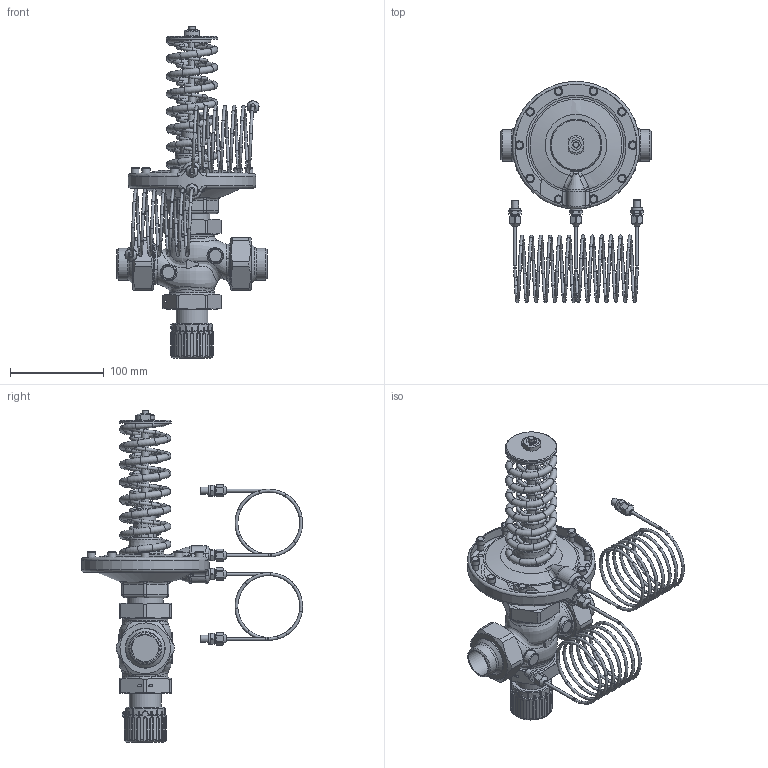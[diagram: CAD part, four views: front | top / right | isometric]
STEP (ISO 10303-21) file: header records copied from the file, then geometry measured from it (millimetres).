
FILE_DESCRIPTION(/* description */ (''),/* implementation_level */ '2;1');
FILE_NAME(/* name */ 'rd122p2_dn25_W.stp',/* time_stamp */ '2012-11-12T11:06:30+01:00',/* author */ ('JENIK'),/* organization */ ('LDM'),/* preprocessor_version */ 'ST-DEVELOPER v11',/* originating_system */ 'SIEMENS PLM Software NX 7.0',/* authorisation */ '');
FILE_SCHEMA (('CONFIG_CONTROL_DESIGN'));
Products named in the file (1): jeniB5D7d15c
Bounding box: 160 x 235.73 x 354 mm (x, y, z)
Volume: 569037.5 mm3; surface area: 209326.1 mm2
Topology: 9 solids, 22 shells, 1292 faces, 3012 edges, 1810 vertices
Faces by surface type: torus 369, cylinder 366, plane 321, bspline 139, cone 90, sphere 7
Full cylindrical faces by diameter (mm): 2 x3, 2.5 x1, 3 x4, 4.891 x10, 6 x12, 6.5 x14, 6.6 x1, 7.794 x4, 8 x7, 9 x10, 12 x4, 22 x1, 24.5 x1, 28.5 x2, 30 x1, 33 x2, 33.7 x2, 33.8 x1, 35 x1, 37 x1, 38 x1, 40 x2, 42 x2, 42.5 x2, 43 x1, 44 x2, 44.5 x2, 44.845 x2, 47.8 x2, 55 x1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
Entity records: 46423 total; most frequent: CARTESIAN_POINT 20404, DIRECTION 5358, ORIENTED_EDGE 4850, EDGE_CURVE 2425, AXIS2_PLACEMENT_3D 2368, EDGE_LOOP 1851, VERTEX_POINT 1690, ADVANCED_FACE 1292
